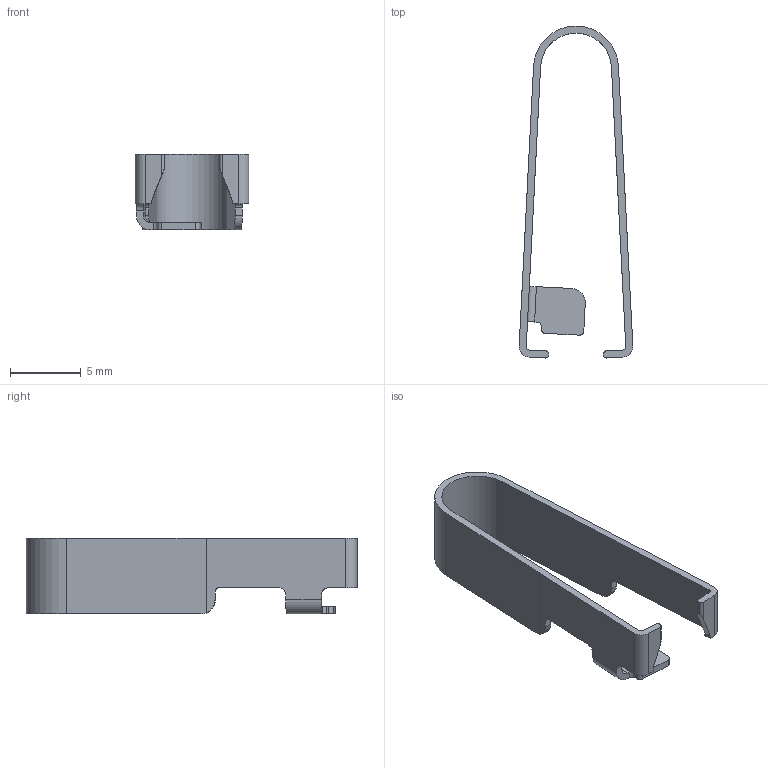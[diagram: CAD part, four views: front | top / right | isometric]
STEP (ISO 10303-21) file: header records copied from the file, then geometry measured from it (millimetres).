
FILE_DESCRIPTION (( 'STEP AP203' ), '1' );
FILE_NAME ('91026C MHF I LK UNMATING JIG STEP R0 ALL.STEP', '2023-02-08T04:48:53', ( '' ), ( '' ), 'SwSTEP 2.0', 'SolidWorks 2020', '' );
FILE_SCHEMA (( 'CONFIG_CONTROL_DESIGN' ));
Length unit declared in the file: millimetre
Products named in the file (1): 91026C MHF I LK UNMATING JIG STEP R0 ALL
Bounding box: 8.02 x 23.42 x 5.35 mm (x, y, z)
Volume: 124.9 mm3; surface area: 561.1 mm2
Topology: 1 solids, 1 shells, 54 faces, 156 edges, 104 vertices
Faces by surface type: plane 30, cylinder 24
Entity records: 1862 total; most frequent: CARTESIAN_POINT 330, ORIENTED_EDGE 312, DIRECTION 306, EDGE_CURVE 156, VECTOR 106, LINE 106, VERTEX_POINT 104, AXIS2_PLACEMENT_3D 100
